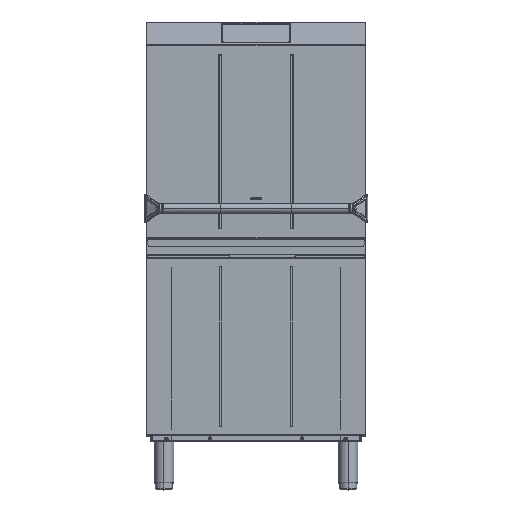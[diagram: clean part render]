
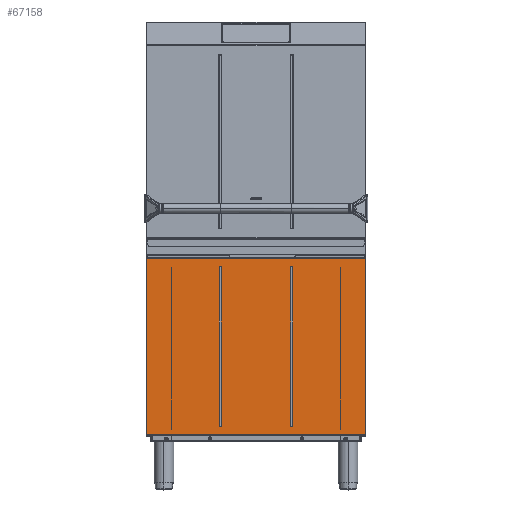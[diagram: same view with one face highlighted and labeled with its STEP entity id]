
A CAD part, top view. The second image highlights one B-rep face of the part: STEP entity #67158.
In plain terms, the highlighted planar face has unit normal (0, 0, 1).
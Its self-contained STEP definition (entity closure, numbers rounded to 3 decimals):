
#817 = EDGE_CURVE ( 'NONE', #30407, #83996, #78172, .T. ) ;
#2390 = CARTESIAN_POINT ( 'NONE',  ( 120.5, -257.5, 0.8 ) ) ;
#3579 = EDGE_CURVE ( 'NONE', #25378, #30407, #34244, .T. ) ;
#5347 = FACE_BOUND ( 'NONE', #40833, .T. ) ;
#5503 = CARTESIAN_POINT ( 'NONE',  ( 112.5, -287.5, 0.8 ) ) ;
#5642 = DIRECTION ( 'NONE',  ( 0., 1., 0. ) ) ;
#6797 = CARTESIAN_POINT ( 'NONE',  ( 120.5, 257.5, 0.8 ) ) ;
#6882 = VECTOR ( 'NONE', #20875, 1000. ) ;
#11214 = CARTESIAN_POINT ( 'NONE',  ( 112.5, 257.5, 0.8 ) ) ;
#17120 = FACE_BOUND ( 'NONE', #116894, .T. ) ;
#17236 = FACE_OUTER_BOUND ( 'NONE', #97924, .T. ) ;
#18910 = DIRECTION ( 'NONE',  ( 1., 0., 0. ) ) ;
#19137 = DIRECTION ( 'NONE',  ( 1., 0., 0. ) ) ;
#19215 = PLANE ( 'NONE',  #55726 ) ;
#19218 = DIRECTION ( 'NONE',  ( 0., 0., -1. ) ) ;
#19357 = CARTESIAN_POINT ( 'NONE',  ( -116.5, -257.5, 0.8 ) ) ;
#19405 = CIRCLE ( 'NONE', #97815, 4. ) ;
#19704 = DIRECTION ( 'NONE',  ( 0., 0., 1. ) ) ;
#20875 = DIRECTION ( 'NONE',  ( 0., 1., 0. ) ) ;
#21413 = CARTESIAN_POINT ( 'NONE',  ( -358., -287.5, 0.8 ) ) ;
#22267 = VERTEX_POINT ( 'NONE', #93478 ) ;
#22445 = VERTEX_POINT ( 'NONE', #76937 ) ;
#25378 = VERTEX_POINT ( 'NONE', #96418 ) ;
#27534 = LINE ( 'NONE', #100535, #27732 ) ;
#27732 = VECTOR ( 'NONE', #100463, 1000. ) ;
#30407 = VERTEX_POINT ( 'NONE', #51135 ) ;
#31648 = ORIENTED_EDGE ( 'NONE', *, *, #61665, .T. ) ;
#34133 = VECTOR ( 'NONE', #115479, 1000. ) ;
#34162 = ORIENTED_EDGE ( 'NONE', *, *, #63271, .T. ) ;
#34244 = LINE ( 'NONE', #115627, #34133 ) ;
#38126 = CARTESIAN_POINT ( 'NONE',  ( -358., -287.5, 0.8 ) ) ;
#38909 = DIRECTION ( 'NONE',  ( -1., 0., 0. ) ) ;
#39023 = DIRECTION ( 'NONE',  ( 1., 0., 0. ) ) ;
#39156 = DIRECTION ( 'NONE',  ( 0., 0., -1. ) ) ;
#39277 = ORIENTED_EDGE ( 'NONE', *, *, #60917, .T. ) ;
#39373 = CARTESIAN_POINT ( 'NONE',  ( 116.5, 257.5, 0.8 ) ) ;
#40340 = LINE ( 'NONE', #95671, #6882 ) ;
#40833 = EDGE_LOOP ( 'NONE', ( #65164, #34162, #39277, #31648 ) ) ;
#41693 = CARTESIAN_POINT ( 'NONE',  ( -120.5, -257.5, 0.8 ) ) ;
#44351 = DIRECTION ( 'NONE',  ( 1., 0., 0. ) ) ;
#44517 = DIRECTION ( 'NONE',  ( 0., 0., -1. ) ) ;
#44633 = CARTESIAN_POINT ( 'NONE',  ( 116.5, -257.5, 0.8 ) ) ;
#44687 = CIRCLE ( 'NONE', #105959, 4. ) ;
#45200 = CARTESIAN_POINT ( 'NONE',  ( -357., -287.5, 0.8 ) ) ;
#47564 = VERTEX_POINT ( 'NONE', #11214 ) ;
#51135 = CARTESIAN_POINT ( 'NONE',  ( 357., -287.5, 0.8 ) ) ;
#52426 = VERTEX_POINT ( 'NONE', #111547 ) ;
#53132 = DIRECTION ( 'NONE',  ( 0., 1., 0. ) ) ;
#53937 = VERTEX_POINT ( 'NONE', #6797 ) ;
#53948 = VERTEX_POINT ( 'NONE', #2390 ) ;
#54749 = CARTESIAN_POINT ( 'NONE',  ( -120.5, -287.5, 0.8 ) ) ;
#55594 = EDGE_CURVE ( 'NONE', #25378, #105979, #80612, .T. ) ;
#55726 = AXIS2_PLACEMENT_3D ( 'NONE', #21413, #19704, #18910 ) ;
#56684 = EDGE_CURVE ( 'NONE', #22445, #47564, #63561, .T. ) ;
#57922 = EDGE_CURVE ( 'NONE', #47564, #53937, #44687, .T. ) ;
#59004 = EDGE_CURVE ( 'NONE', #53937, #53948, #27534, .T. ) ;
#59518 = EDGE_CURVE ( 'NONE', #53948, #22445, #19405, .T. ) ;
#60917 = EDGE_CURVE ( 'NONE', #102997, #73590, #114793, .T. ) ;
#61665 = EDGE_CURVE ( 'NONE', #73590, #52426, #101724, .T. ) ;
#62397 = EDGE_CURVE ( 'NONE', #52426, #22267, #90156, .T. ) ;
#63271 = EDGE_CURVE ( 'NONE', #22267, #102997, #76552, .T. ) ;
#63465 = VECTOR ( 'NONE', #5642, 1000. ) ;
#63561 = LINE ( 'NONE', #5503, #63465 ) ;
#65164 = ORIENTED_EDGE ( 'NONE', *, *, #62397, .T. ) ;
#67158 = ADVANCED_FACE ( 'NONE', ( #5347, #17120, #17236 ), #19215, .T. ) ;
#70775 = CARTESIAN_POINT ( 'NONE',  ( -116.5, 257.5, 0.8 ) ) ;
#71310 = DIRECTION ( 'NONE',  ( 1., 0., 0. ) ) ;
#72125 = DIRECTION ( 'NONE',  ( 0., 0., -1. ) ) ;
#73590 = VERTEX_POINT ( 'NONE', #114821 ) ;
#76552 = CIRCLE ( 'NONE', #76863, 4. ) ;
#76863 = AXIS2_PLACEMENT_3D ( 'NONE', #19357, #19218, #19137 ) ;
#76937 = CARTESIAN_POINT ( 'NONE',  ( 112.5, -257.5, 0.8 ) ) ;
#78172 = LINE ( 'NONE', #38126, #78625 ) ;
#78625 = VECTOR ( 'NONE', #38909, 1000. ) ;
#80612 = LINE ( 'NONE', #98425, #80636 ) ;
#80636 = VECTOR ( 'NONE', #96882, 1000. ) ;
#83996 = VERTEX_POINT ( 'NONE', #45200 ) ;
#85761 = AXIS2_PLACEMENT_3D ( 'NONE', #70775, #72125, #71310 ) ;
#86279 = DIRECTION ( 'NONE',  ( 0., -1., 0. ) ) ;
#89505 = VECTOR ( 'NONE', #86279, 1000. ) ;
#90156 = LINE ( 'NONE', #101305, #89505 ) ;
#91375 = ORIENTED_EDGE ( 'NONE', *, *, #59004, .T. ) ;
#92268 = ORIENTED_EDGE ( 'NONE', *, *, #59518, .T. ) ;
#93478 = CARTESIAN_POINT ( 'NONE',  ( -112.5, -257.5, 0.8 ) ) ;
#94083 = ORIENTED_EDGE ( 'NONE', *, *, #56684, .T. ) ;
#94514 = ORIENTED_EDGE ( 'NONE', *, *, #57922, .T. ) ;
#95090 = ORIENTED_EDGE ( 'NONE', *, *, #117902, .F. ) ;
#95671 = CARTESIAN_POINT ( 'NONE',  ( -357., -3162.5, 0.8 ) ) ;
#96418 = CARTESIAN_POINT ( 'NONE',  ( 357., 287.5, 0.8 ) ) ;
#96882 = DIRECTION ( 'NONE',  ( -1., 0., 0. ) ) ;
#97815 = AXIS2_PLACEMENT_3D ( 'NONE', #44633, #44517, #44351 ) ;
#97924 = EDGE_LOOP ( 'NONE', ( #95090, #99789, #100560, #102875 ) ) ;
#98425 = CARTESIAN_POINT ( 'NONE',  ( -358., 287.5, 0.8 ) ) ;
#99789 = ORIENTED_EDGE ( 'NONE', *, *, #817, .F. ) ;
#100463 = DIRECTION ( 'NONE',  ( 0., -1., 0. ) ) ;
#100535 = CARTESIAN_POINT ( 'NONE',  ( 120.5, -287.5, 0.8 ) ) ;
#100560 = ORIENTED_EDGE ( 'NONE', *, *, #3579, .F. ) ;
#101305 = CARTESIAN_POINT ( 'NONE',  ( -112.5, -287.5, 0.8 ) ) ;
#101724 = CIRCLE ( 'NONE', #85761, 4. ) ;
#102875 = ORIENTED_EDGE ( 'NONE', *, *, #55594, .T. ) ;
#102997 = VERTEX_POINT ( 'NONE', #41693 ) ;
#105291 = CARTESIAN_POINT ( 'NONE',  ( -357., 287.5, 0.8 ) ) ;
#105959 = AXIS2_PLACEMENT_3D ( 'NONE', #39373, #39156, #39023 ) ;
#105979 = VERTEX_POINT ( 'NONE', #105291 ) ;
#111547 = CARTESIAN_POINT ( 'NONE',  ( -112.5, 257.5, 0.8 ) ) ;
#113822 = VECTOR ( 'NONE', #53132, 1000. ) ;
#114793 = LINE ( 'NONE', #54749, #113822 ) ;
#114821 = CARTESIAN_POINT ( 'NONE',  ( -120.5, 257.5, 0.8 ) ) ;
#115479 = DIRECTION ( 'NONE',  ( 0., -1., 0. ) ) ;
#115627 = CARTESIAN_POINT ( 'NONE',  ( 357., -3162.5, 0.8 ) ) ;
#116894 = EDGE_LOOP ( 'NONE', ( #91375, #92268, #94083, #94514 ) ) ;
#117902 = EDGE_CURVE ( 'NONE', #83996, #105979, #40340, .T. ) ;
